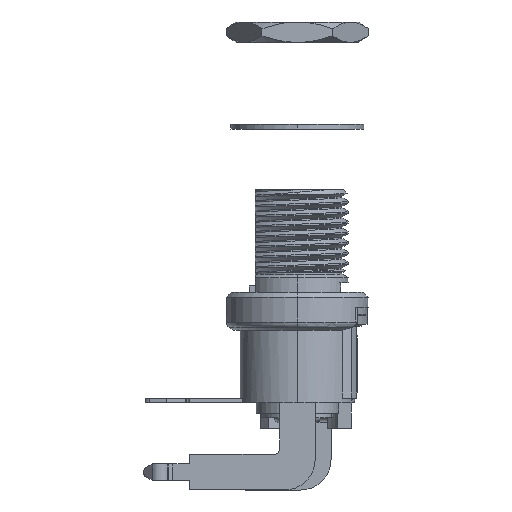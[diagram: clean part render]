
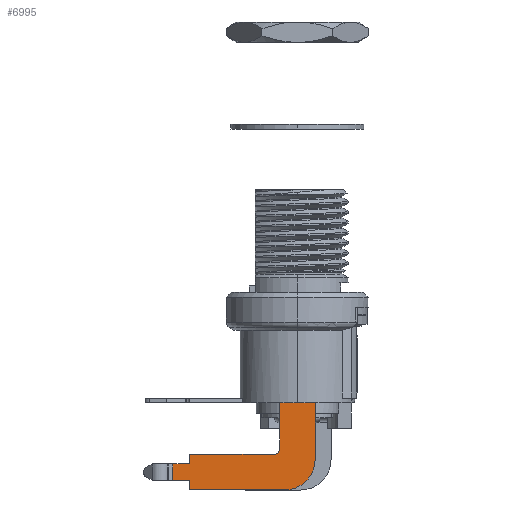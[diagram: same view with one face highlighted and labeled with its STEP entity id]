
A CAD part, left-side view. The second image highlights one B-rep face of the part: STEP entity #6995.
In plain terms, the highlighted planar face has unit normal (-1, 0, 0).
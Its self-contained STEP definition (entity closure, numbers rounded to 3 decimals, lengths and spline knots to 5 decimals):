
#6742 = VERTEX_POINT ( 'NONE', #39838 ) ;
#6744 = EDGE_CURVE ( 'NONE', #6762, #6742, #39837, .T. ) ;
#6762 = VERTEX_POINT ( 'NONE', #39873 ) ;
#6764 = EDGE_CURVE ( 'NONE', #6765, #6762, #39872, .T. ) ;
#6765 = VERTEX_POINT ( 'NONE', #39867 ) ;
#6786 = VERTEX_POINT ( 'NONE', #39910 ) ;
#6790 = EDGE_CURVE ( 'NONE', #6792, #6786, #39909, .T. ) ;
#6792 = VERTEX_POINT ( 'NONE', #39905 ) ;
#6817 = EDGE_CURVE ( 'NONE', #6786, #6819, #39949, .T. ) ;
#6819 = VERTEX_POINT ( 'NONE', #39942 ) ;
#6838 = EDGE_CURVE ( 'NONE', #6846, #6792, #39941, .T. ) ;
#6846 = VERTEX_POINT ( 'NONE', #39926 ) ;
#6850 = EDGE_CURVE ( 'NONE', #6742, #6846, #39988, .T. ) ;
#6869 = EDGE_CURVE ( 'NONE', #7003, #6870, #39965, .T. ) ;
#6870 = VERTEX_POINT ( 'NONE', #39958 ) ;
#6872 = ORIENTED_EDGE ( 'NONE', *, *, #6874, .T. ) ;
#6874 = EDGE_CURVE ( 'NONE', #6870, #6765, #40020, .T. ) ;
#6876 = ORIENTED_EDGE ( 'NONE', *, *, #6764, .T. ) ;
#6881 = VERTEX_POINT ( 'NONE', #40012 ) ;
#6884 = EDGE_CURVE ( 'NONE', #6904, #6881, #40011, .T. ) ;
#6896 = VERTEX_POINT ( 'NONE', #39990 ) ;
#6904 = VERTEX_POINT ( 'NONE', #40045 ) ;
#6906 = EDGE_CURVE ( 'NONE', #6819, #6904, #40044, .T. ) ;
#6970 = ORIENTED_EDGE ( 'NONE', *, *, #6744, .T. ) ;
#6971 = ORIENTED_EDGE ( 'NONE', *, *, #6850, .T. ) ;
#6972 = ORIENTED_EDGE ( 'NONE', *, *, #6838, .T. ) ;
#6974 = ORIENTED_EDGE ( 'NONE', *, *, #6790, .T. ) ;
#6976 = ORIENTED_EDGE ( 'NONE', *, *, #6817, .T. ) ;
#6977 = ORIENTED_EDGE ( 'NONE', *, *, #6906, .T. ) ;
#6979 = ORIENTED_EDGE ( 'NONE', *, *, #6884, .T. ) ;
#6981 = ORIENTED_EDGE ( 'NONE', *, *, #6991, .T. ) ;
#6991 = EDGE_CURVE ( 'NONE', #6881, #6896, #40110, .T. ) ;
#6995 = ADVANCED_FACE ( 'NONE', ( #40106 ), #40105, .T. ) ;
#6997 = EDGE_LOOP ( 'NONE', ( #6999, #7004, #6872, #6876, #6970, #6971, #6972, #6974, #6976, #6977, #6979, #6981 ) ) ;
#6999 = ORIENTED_EDGE ( 'NONE', *, *, #7001, .T. ) ;
#7001 = EDGE_CURVE ( 'NONE', #6896, #7003, #40100, .T. ) ;
#7003 = VERTEX_POINT ( 'NONE', #40096 ) ;
#7004 = ORIENTED_EDGE ( 'NONE', *, *, #6869, .T. ) ;
#39834 = DIRECTION ( 'NONE',  ( 0., 1., 0. ) ) ;
#39835 = VECTOR ( 'NONE', #39834, 39.37008 ) ;
#39836 = CARTESIAN_POINT ( 'NONE',  ( -0.1632, 0.16325, -0.495 ) ) ;
#39837 = LINE ( 'NONE', #39836, #39835 ) ;
#39838 = CARTESIAN_POINT ( 'NONE',  ( -0.1632, 0.33, -0.495 ) ) ;
#39867 = CARTESIAN_POINT ( 'NONE',  ( -0.1632, 0.0545, -0.479 ) ) ;
#39868 = DIRECTION ( 'NONE',  ( 0., 1., 0. ) ) ;
#39869 = DIRECTION ( 'NONE',  ( 1., 0., 0. ) ) ;
#39870 = CARTESIAN_POINT ( 'NONE',  ( -0.1632, 0.0705, -0.479 ) ) ;
#39871 = AXIS2_PLACEMENT_3D ( 'NONE', #39870, #39869, #39868 ) ;
#39872 = CIRCLE ( 'NONE', #39871, 0.016 ) ;
#39873 = CARTESIAN_POINT ( 'NONE',  ( -0.1632, 0.0705, -0.495 ) ) ;
#39905 = CARTESIAN_POINT ( 'NONE',  ( -0.1632, 0.381, -0.5245 ) ) ;
#39906 = DIRECTION ( 'NONE',  ( 0., 0., -1. ) ) ;
#39907 = VECTOR ( 'NONE', #39906, 39.37008 ) ;
#39908 = CARTESIAN_POINT ( 'NONE',  ( -0.1632, 0.381, -0.424 ) ) ;
#39909 = LINE ( 'NONE', #39908, #39907 ) ;
#39910 = CARTESIAN_POINT ( 'NONE',  ( -0.1632, 0.381, -0.5745 ) ) ;
#39926 = CARTESIAN_POINT ( 'NONE',  ( -0.1632, 0.33, -0.5245 ) ) ;
#39938 = DIRECTION ( 'NONE',  ( 0., 1., 0. ) ) ;
#39939 = VECTOR ( 'NONE', #39938, 39.37008 ) ;
#39940 = CARTESIAN_POINT ( 'NONE',  ( -0.1632, 0.16325, -0.5245 ) ) ;
#39941 = LINE ( 'NONE', #39940, #39939 ) ;
#39942 = CARTESIAN_POINT ( 'NONE',  ( -0.1632, 0.33, -0.5745 ) ) ;
#39943 = DIRECTION ( 'NONE',  ( 0., -1., 0. ) ) ;
#39944 = VECTOR ( 'NONE', #39943, 39.37008 ) ;
#39945 = CARTESIAN_POINT ( 'NONE',  ( -0.1632, 0.16325, -0.5745 ) ) ;
#39949 = LINE ( 'NONE', #39945, #39944 ) ;
#39958 = CARTESIAN_POINT ( 'NONE',  ( -0.1632, 0.0545, -0.3372 ) ) ;
#39959 = DIRECTION ( 'NONE',  ( 0., 1., 0. ) ) ;
#39960 = VECTOR ( 'NONE', #39959, 39.37008 ) ;
#39961 = CARTESIAN_POINT ( 'NONE',  ( -0.1632, 0.38971, -0.3372 ) ) ;
#39965 = LINE ( 'NONE', #39961, #39960 ) ;
#39985 = DIRECTION ( 'NONE',  ( 0., 0., -1. ) ) ;
#39986 = VECTOR ( 'NONE', #39985, 39.37008 ) ;
#39987 = CARTESIAN_POINT ( 'NONE',  ( -0.1632, 0.33, -0.424 ) ) ;
#39988 = LINE ( 'NONE', #39987, #39986 ) ;
#39990 = CARTESIAN_POINT ( 'NONE',  ( -0.1632, -0.0545, -0.511 ) ) ;
#40008 = DIRECTION ( 'NONE',  ( 0., -1., 0. ) ) ;
#40009 = VECTOR ( 'NONE', #40008, 39.37008 ) ;
#40010 = CARTESIAN_POINT ( 'NONE',  ( -0.1632, 0.16325, -0.604 ) ) ;
#40011 = LINE ( 'NONE', #40010, #40009 ) ;
#40012 = CARTESIAN_POINT ( 'NONE',  ( -0.1632, 0.0385, -0.604 ) ) ;
#40017 = DIRECTION ( 'NONE',  ( 0., 0., -1. ) ) ;
#40018 = VECTOR ( 'NONE', #40017, 39.37008 ) ;
#40019 = CARTESIAN_POINT ( 'NONE',  ( -0.1632, 0.0545, -0.424 ) ) ;
#40020 = LINE ( 'NONE', #40019, #40018 ) ;
#40041 = DIRECTION ( 'NONE',  ( 0., 0., -1. ) ) ;
#40042 = VECTOR ( 'NONE', #40041, 39.37008 ) ;
#40043 = CARTESIAN_POINT ( 'NONE',  ( -0.1632, 0.33, -0.424 ) ) ;
#40044 = LINE ( 'NONE', #40043, #40042 ) ;
#40045 = CARTESIAN_POINT ( 'NONE',  ( -0.1632, 0.33, -0.604 ) ) ;
#40096 = CARTESIAN_POINT ( 'NONE',  ( -0.1632, -0.0545, -0.3372 ) ) ;
#40097 = DIRECTION ( 'NONE',  ( 0., 0., 1. ) ) ;
#40098 = VECTOR ( 'NONE', #40097, 39.37008 ) ;
#40099 = CARTESIAN_POINT ( 'NONE',  ( -0.1632, -0.0545, -0.424 ) ) ;
#40100 = LINE ( 'NONE', #40099, #40098 ) ;
#40101 = DIRECTION ( 'NONE',  ( 0., 0., -1. ) ) ;
#40102 = DIRECTION ( 'NONE',  ( -1., 0., 0. ) ) ;
#40103 = AXIS2_PLACEMENT_3D ( 'NONE', #40104, #40102, #40101 ) ;
#40104 = CARTESIAN_POINT ( 'NONE',  ( -0.1632, 0.38971, -0.2368 ) ) ;
#40105 = PLANE ( 'NONE',  #40103 ) ;
#40106 = FACE_OUTER_BOUND ( 'NONE', #6997, .T. ) ;
#40107 = DIRECTION ( 'NONE',  ( 0., 1., 0. ) ) ;
#40108 = DIRECTION ( 'NONE',  ( -1., 0., 0. ) ) ;
#40109 = AXIS2_PLACEMENT_3D ( 'NONE', #40116, #40108, #40107 ) ;
#40110 = CIRCLE ( 'NONE', #40109, 0.093 ) ;
#40116 = CARTESIAN_POINT ( 'NONE',  ( -0.1632, 0.0385, -0.511 ) ) ;
